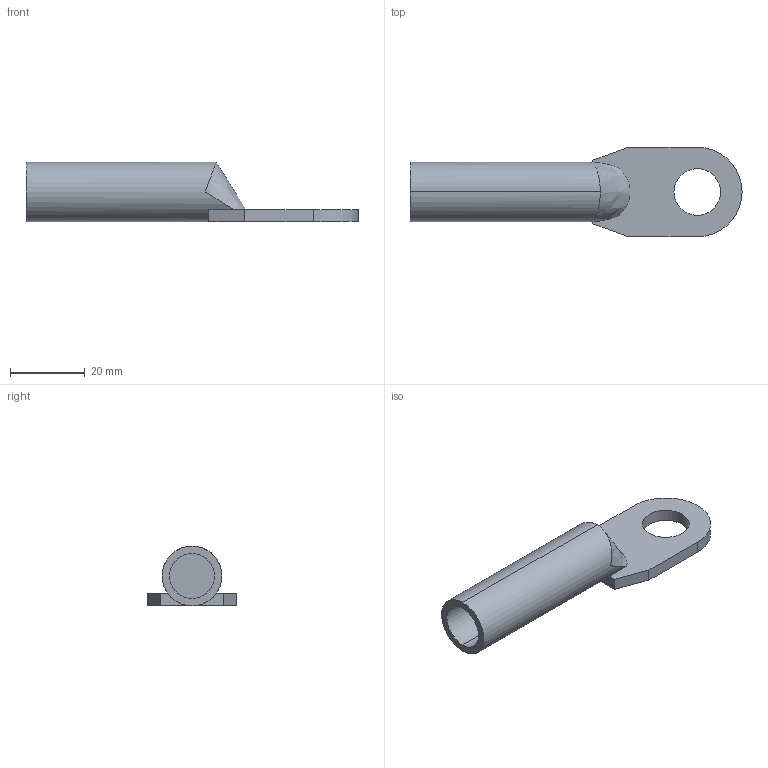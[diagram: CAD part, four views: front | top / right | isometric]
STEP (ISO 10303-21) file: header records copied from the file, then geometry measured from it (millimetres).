
FILE_DESCRIPTION (( 'STEP AP203' ), '1' );
FILE_NAME ('dl-70-12-12 侲膰翴籦鴀 DL-70-12-12 (甡).STEP', '2017-02-06T16:02:35', ( 'kuryshev' ), ( '' ), 'SwSTEP 2.0', 'SolidWorks 2010', '' );
FILE_SCHEMA (( 'CONFIG_CONTROL_DESIGN' ));
Length unit declared in the file: millimetre
Products named in the file (1): dl-70-12-12 侲膰翴籦鴀 DL-70-12-12 (甡)
Bounding box: 89 x 24 x 16 mm (x, y, z)
Volume: 8076.5 mm3; surface area: 6499.7 mm2
Topology: 1 solids, 1 shells, 18 faces, 45 edges, 30 vertices
Faces by surface type: plane 10, cylinder 7, bspline 1
Entity records: 692 total; most frequent: CARTESIAN_POINT 173, DIRECTION 92, ORIENTED_EDGE 90, EDGE_CURVE 45, AXIS2_PLACEMENT_3D 33, VERTEX_POINT 30, VECTOR 26, LINE 26
